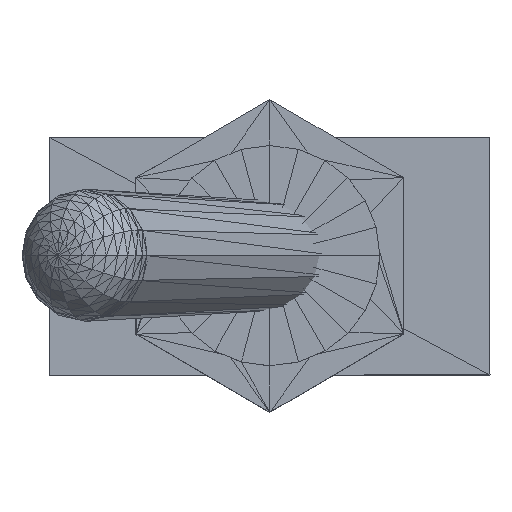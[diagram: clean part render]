
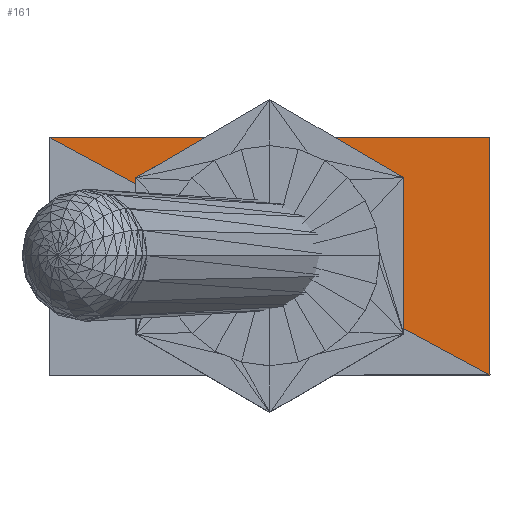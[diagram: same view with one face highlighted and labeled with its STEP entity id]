
A CAD part, top view. The second image highlights one B-rep face of the part: STEP entity #161.
In plain terms, the highlighted planar face has unit normal (0, 0, 1).
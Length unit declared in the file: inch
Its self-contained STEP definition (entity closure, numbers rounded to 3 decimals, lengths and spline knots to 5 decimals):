
#66=CARTESIAN_POINT('',(-0.24977,0.13483,1.11157));
#67=VERTEX_POINT('',#66);
#76=CARTESIAN_POINT('',(0.25041,-0.13483,1.11143));
#77=VERTEX_POINT('',#76);
#84=CARTESIAN_POINT('',(0.25041,-0.13483,1.11143));
#85=DIRECTION('',(-0.88,0.475,0.));
#86=VECTOR('',#85,0.56824);
#87=LINE('',#84,#86);
#88=EDGE_CURVE('',#77,#67,#87,.T.);
#139=CARTESIAN_POINT('',(-0.24977,0.13483,1.11157));
#140=DIRECTION('',(0.,0.,1.));
#141=DIRECTION('',(1.,-0.,0.));
#142=AXIS2_PLACEMENT_3D('',#139,#140,#141);
#143=PLANE('',#142);
#144=ORIENTED_EDGE('',*,*,#88,.F.);
#145=CARTESIAN_POINT('',(0.25023,0.13517,1.11143));
#146=VERTEX_POINT('',#145);
#147=CARTESIAN_POINT('',(0.25023,0.13517,1.11143));
#148=DIRECTION('',(0.001,-1.,0.));
#149=VECTOR('',#148,0.27);
#150=LINE('',#147,#149);
#151=EDGE_CURVE('',#146,#77,#150,.T.);
#152=ORIENTED_EDGE('',*,*,#151,.F.);
#153=CARTESIAN_POINT('',(0.25023,0.13517,1.11143));
#154=DIRECTION('',(-1.,-0.001,0.));
#155=VECTOR('',#154,0.5);
#156=LINE('',#153,#155);
#157=EDGE_CURVE('',#146,#67,#156,.T.);
#158=ORIENTED_EDGE('',*,*,#157,.T.);
#159=EDGE_LOOP('',(#144,#152,#158));
#160=FACE_BOUND('',#159,.T.);
#161=ADVANCED_FACE('',(#160),#143,.T.);
